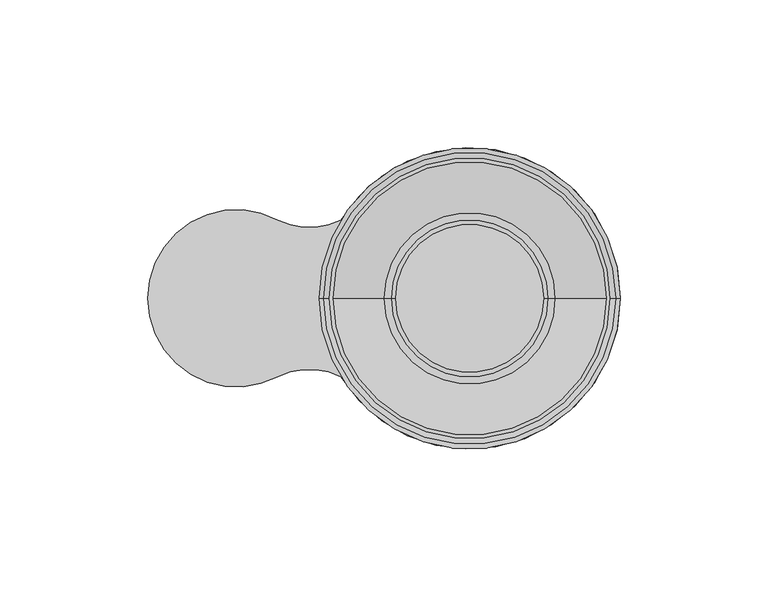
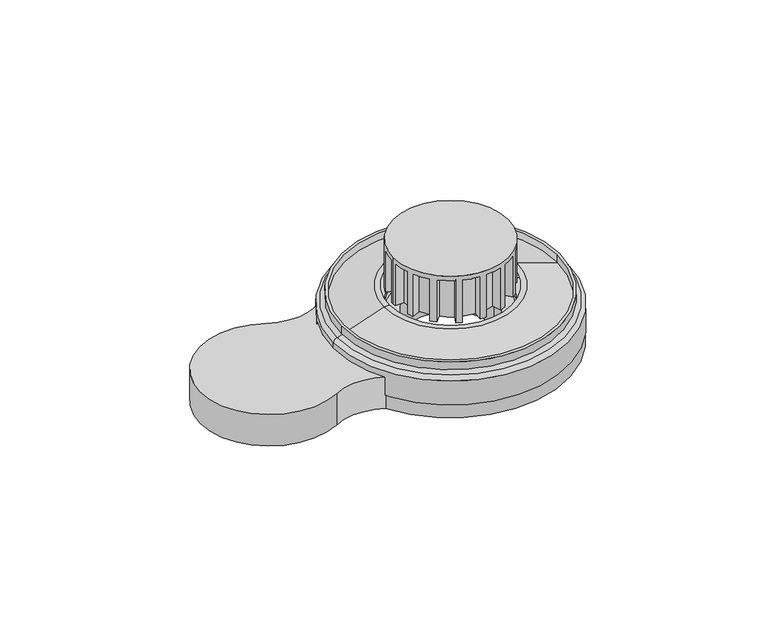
"""IFC4 building model written with IfcOpenShell, lengths in millimetres: alarm geometry, 4400I_Analog Multi Detector : 4400I-B_4479-B."""

from ifc_helpers import new_model, si_unit, point, frame, frame_2d, origin, origin_with_axes, origin_2d, place, context, project, spatial, polyline, circle_curve, ellipse_curve, trimmed, segment, composite_curve, outline, extrude, source, transform, mapped, element, save
from ifc_brep_helpers import plane_surface, cylinder_surface, revolved_surface, advanced_brep


def alarm_e853ffaf(model_context):
    return source(origin(), model_context, "Body", "SolidModel", [
        advanced_brep(
        [(49.4021885, 0.0, 18.7), (-49.4021885, 0.0, 18.7), (-29.0341186, 0.0, 25.5490601), (29.0341186, 0.0, 25.5490601), (46.9790343, 0.0, 18.7), (-46.9790343, 0.0, 18.7), (26.6109644, 0.0, 25.5490601), (-26.6109644, 0.0, 25.5490601)],
        [
            (0, 1, circle_curve(frame((0.0, 0.0, 18.7), z_axis=(0.0, 0.0, 1.0), x_axis=(-1.0, 0.0, 0.0)), 49.4021885)),
            (1, 2),
            (2, 3, circle_curve(frame((0.0, 0.0, 25.5490601), z_axis=(0.0, 0.0, -1.0), x_axis=(-1.0, 0.0, 0.0)), 29.0341186)),
            (3, 0),
            (1, 0, circle_curve(frame((0.0, 0.0, 18.7), z_axis=(0.0, 0.0, 1.0), x_axis=(-1.0, 0.0, 0.0)), 49.4021885)),
            (3, 2, circle_curve(frame((0.0, 0.0, 25.5490601), z_axis=(0.0, 0.0, -1.0), x_axis=(-1.0, 0.0, 0.0)), 29.0341186)),
            (4, 5, circle_curve(frame((0.0, 0.0, 18.7), z_axis=(0.0, 0.0, 1.0), x_axis=(-1.0, 0.0, 0.0)), 46.9790343)),
            (5, 1),
            (0, 4),
            (5, 4, circle_curve(frame((0.0, 0.0, 18.7), z_axis=(0.0, 0.0, 1.0), x_axis=(-1.0, 0.0, 0.0)), 46.9790343)),
            (6, 7, circle_curve(frame((0.0, 0.0, 25.5490601), z_axis=(0.0, 0.0, 1.0), x_axis=(-1.0, 0.0, 0.0)), 26.6109644)),
            (7, 5),
            (4, 6),
            (7, 6, circle_curve(frame((0.0, 0.0, 25.5490601), z_axis=(0.0, 0.0, 1.0), x_axis=(-1.0, 0.0, 0.0)), 26.6109644)),
            (2, 7),
            (6, 3),
        ],
        [
            revolved_surface(polyline([(-29.0341186, 0.0, 25.5490601), (-49.4021885, 0.0, 18.7)]), (0.0, 0.0, 2609.0581012), (0.0, 0.0, -1.0)),
            plane_surface(frame((0.0, 0.0, 18.7), z_axis=(0.0, 0.0, -1.0), x_axis=(-1.0, 0.0, 0.0))),
            revolved_surface(polyline([(-46.9790343, 0.0, 18.7), (-26.6109644, 0.0, 25.5490601)]), (0.0, 0.0, 2609.0581012), (0.0, 0.0, -1.0)),
            plane_surface(frame((0.0, 0.0, 25.5490601), z_axis=(0.0, 0.0, 1.0), x_axis=(-1.0, 0.0, 0.0))),
        ],
        [
            (0, [[1, 2, 3, 4]]),
            (0, [[5, -4, 6, -2]]),
            (1, [[7, 8, -1, 9]]),
            (1, [[10, -9, -5, -8]]),
            (2, [[11, 12, -7, 13]]),
            (2, [[14, -13, -10, -12]]),
            (3, [[-3, 15, -11, 16]]),
            (3, [[-6, -16, -14, -15]]),
        ],
    ),
        advanced_brep(
        [(-25.0, 0.0, 47.0), (25.0, 0.0, 47.0), (-10.2364426, 22.8082275, 25.5490601), (-7.8171012, 23.7464298, 25.5490601), (-6.566365, 19.9470011, 25.5490601), (-0.7601379, 20.9862381, 25.5490601), (-0.7748533, 24.9879892, 25.5490601), (1.8194655, 24.933703, 25.5490601), (1.528351, 20.9443105, 25.5490601), (7.2926143, 19.6930895, 25.5490601), (8.8036125, 23.3986411, 25.5490601), (11.1815896, 22.3600549, 25.5490601), (9.3925353, 18.7824461, 25.5490601), (14.2453716, 15.4294973, 25.5490601), (17.0541691, 18.2799157, 25.5490601), (18.857118, 16.4136864, 25.5490601), (15.8399791, 13.7874966, 25.5490601), (19.0494019, 8.8385682, 25.5490601), (22.7323284, 10.4039053, 25.5490601), (23.688298, 7.9915291, 25.5490601), (19.8981703, 6.7128844, 25.5490601), (20.9800803, 0.9144573, 25.5490601), (24.9816149, 0.9586025, 25.5490601), (25.0, 0.0, 25.5490601), (24.9464097, -1.6360453, 25.5490601), (20.9549841, -1.3742781, 25.5490601), (19.7461893, -7.1475874, 25.5490601), (23.4627531, -8.6312929, 25.5490601), (22.4416834, -11.0168438, 25.5490601), (18.851014, -9.2541488, 25.5490601), (15.5338454, -14.1315126, 25.5490601), (18.4048435, -16.9192711, 25.5490601), (16.5519242, -18.7358962, 25.5490601), (13.9036163, -15.7381528, 25.5490601), (8.978425, -18.9838849, 25.5490601), (10.5708052, -22.6551998, 25.5490601), (8.1655248, -23.628885, 25.5490601), (6.8590408, -19.8482634, 25.5490601), (1.0687273, -20.9727877, 25.5490601), (1.1422999, -24.9738894, 25.5490601), (-1.4525367, -24.9577671, 25.5490601), (-1.2201308, -20.9645243, 25.5490601), (-7.0021739, -19.7982211, 25.5490601), (-8.4585064, -23.5255961, 25.5490601), (-10.8515021, -22.5220981, 25.5490601), (-9.1152617, -18.9185624, 25.5490601), (-14.0168893, -15.6373532, 25.5490601), (-16.7834581, -18.5287758, 25.5490601), (-18.613661, -16.6892667, 25.5490601), (-15.6354753, -14.018984, 25.5490601), (-18.9173411, -9.1177961, 25.5490601), (-22.5768458, -10.7371334, 25.5490601), (-23.5681939, -8.3390788, 25.5490601), (-19.7972829, -7.0048262, 25.5490601), (-20.9643607, -1.2229394, 25.5490601), (-24.9648131, -1.3259355, 25.5490601), (-25.0, 0.0, 25.5490601), (-24.9677746, 1.2689495, 25.5490601), (-20.9729306, 1.0659176, 25.5490601), (-19.8491821, 6.8563817, 25.5490601), (-23.5871666, 8.2852624, 25.5490601), (-22.2772169, 11.3457307, 25.5490601), (-18.7128622, 9.5304138, 25.5490601), (-15.3243147, 14.3584602, 25.5490601), (-18.1539992, 17.1881446, 25.5490601), (-16.2745608, 18.9773199, 25.5490601), (-13.6706311, 15.9409487, 25.5490601), (-8.6982334, 19.1138885, 25.5490601), (-24.9648131, -1.3259355, 44.9967715), (-23.5681939, -8.3390788, 44.9967715), (-22.5768458, -10.7371334, 44.9967715), (-18.613661, -16.6892667, 44.9967715), (-16.7834581, -18.5287758, 44.9967715), (-10.8515021, -22.5220981, 44.9967715), (-8.4585064, -23.5255961, 44.9967715), (-1.4525367, -24.9577671, 44.9967715), (1.1422999, -24.9738894, 44.9967715), (8.1655248, -23.628885, 44.9967715), (10.5708052, -22.6551998, 44.9967715), (16.5519242, -18.7358962, 44.9967715), (18.4048435, -16.9192711, 44.9967715), (22.4416834, -11.0168438, 44.9967715), (23.4627531, -8.6312929, 44.9967715), (24.9464097, -1.6360453, 44.9967715), (24.9816149, 0.9586025, 44.9967715), (23.688298, 7.9915291, 44.9967715), (22.7323284, 10.4039053, 44.9967715), (18.857118, 16.4136864, 44.9967715), (17.0541691, 18.2799157, 44.9967715), (11.1815896, 22.3600549, 44.9967715), (8.8036125, 23.3986411, 44.9967715), (1.8194655, 24.933703, 44.9967715), (-0.7748533, 24.9879892, 44.9967715), (-7.8171012, 23.7464298, 44.9967715), (-10.2364426, 22.8082275, 44.9967715), (-16.2745608, 18.9773199, 44.9967715), (-18.1539992, 17.1881446, 44.9967715), (-22.2772169, 11.3457307, 44.9967715), (-23.5871666, 8.2852624, 44.9967715), (-24.9677746, 1.2689495, 44.9967715), (-8.6982334, 19.1138885, 44.9967715), (-13.6706311, 15.9409487, 44.9967715), (-0.7601379, 20.9862381, 44.9967715), (-6.566365, 19.9470011, 44.9967715), (7.2926143, 19.6930895, 44.9967715), (1.528351, 20.9443105, 44.9967715), (14.2453716, 15.4294973, 44.9967715), (9.3925353, 18.7824461, 44.9967715), (19.0494019, 8.8385682, 44.9967715), (15.8399791, 13.7874966, 44.9967715), (20.9800803, 0.9144573, 44.9967715), (19.8981703, 6.7128844, 44.9967715), (19.7461893, -7.1475874, 44.9967715), (20.9549841, -1.3742781, 44.9967715), (15.5338454, -14.1315126, 44.9967715), (18.851014, -9.2541488, 44.9967715), (8.978425, -18.9838849, 44.9967715), (13.9036163, -15.7381528, 44.9967715), (1.0687273, -20.9727877, 44.9967715), (6.8590408, -19.8482634, 44.9967715), (-7.0021739, -19.7982211, 44.9967715), (-1.2201308, -20.9645243, 44.9967715), (-14.0168893, -15.6373532, 44.9967715), (-9.1152617, -18.9185624, 44.9967715), (-18.9173411, -9.1177961, 44.9967715), (-15.6354753, -14.018984, 44.9967715), (-20.9643607, -1.2229394, 44.9967715), (-19.7972829, -7.0048262, 44.9967715), (-19.8491821, 6.8563817, 44.9967715), (-20.9729306, 1.0659176, 44.9967715), (-15.3243147, 14.3584602, 44.9967715), (-18.7128622, 9.5304138, 44.9967715)],
        [
            (0, 1, circle_curve(frame((0.0, 0.0, 47.0), z_axis=(0.0, 0.0, 1.0), x_axis=(1.0, 0.0, 0.0)), 25.0)),
            (1, 0, circle_curve(frame((0.0, 0.0, 47.0), z_axis=(0.0, 0.0, 1.0), x_axis=(1.0, 0.0, 0.0)), 25.0)),
            (2, 3, circle_curve(frame((0.0, 0.0, 25.5490601), z_axis=(0.0, 0.0, -1.0), x_axis=(1.0, 0.0, 0.0)), 25.0)),
            (3, 4),
            (4, 5, circle_curve(frame((0.0, 0.0, 25.5490601), z_axis=(0.0, 0.0, -1.0), x_axis=(0.7097021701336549, -0.7045018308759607, 0.0)), 21.0)),
            (5, 6),
            (6, 7, circle_curve(frame((0.0, 0.0, 25.5490601), z_axis=(0.0, 0.0, -1.0), x_axis=(1.0, 0.0, 0.0)), 25.0)),
            (7, 8),
            (8, 9, circle_curve(frame((0.0, 0.0, 25.5490601), z_axis=(0.0, 0.0, -1.0), x_axis=(0.38777352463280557, -0.9217546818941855, 0.0)), 21.0)),
            (9, 10),
            (10, 11, circle_curve(frame((0.0, 0.0, 25.5490601), z_axis=(0.0, 0.0, -1.0), x_axis=(1.0, 0.0, 0.0)), 25.0)),
            (11, 12),
            (12, 13, circle_curve(frame((0.0, 0.0, 25.5490601), z_axis=(0.0, 0.0, -1.0), x_axis=(0.0073543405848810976, -0.9999729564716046, 0.0)), 21.0)),
            (13, 14),
            (14, 15, circle_curve(frame((0.0, 0.0, 25.5490601), z_axis=(0.0, 0.0, -1.0), x_axis=(1.0, 0.0, 0.0)), 25.0)),
            (15, 16),
            (16, 17, circle_curve(frame((0.0, 0.0, 25.5490601), z_axis=(0.0, 0.0, -1.0), x_axis=(-0.3741741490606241, -0.9273584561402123, 0.0)), 21.0)),
            (17, 18),
            (18, 19, circle_curve(frame((0.0, 0.0, 25.5490601), z_axis=(0.0, 0.0, -1.0), x_axis=(1.0, 0.0, 0.0)), 25.0)),
            (19, 20),
            (20, 21, circle_curve(frame((0.0, 0.0, 25.5490601), z_axis=(0.0, 0.0, -1.0), x_axis=(-0.6992633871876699, -0.7148641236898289, 0.0)), 21.0)),
            (21, 22),
            (22, 23, circle_curve(frame((0.0, 0.0, 25.5490601), z_axis=(0.0, 0.0, -1.0), x_axis=(1.0, 0.0, 0.0)), 25.0)),
            (23, 24, circle_curve(frame((0.0, 0.0, 25.5490601), z_axis=(0.0, 0.0, -1.0), x_axis=(1.0, 0.0, 0.0)), 25.0)),
            (24, 25),
            (25, 26, circle_curve(frame((0.0, 0.0, 25.5490601), z_axis=(0.0, 0.0, -1.0), x_axis=(-0.9188779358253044, -0.39454193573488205, 0.0)), 21.0)),
            (26, 27),
            (27, 28, circle_curve(frame((0.0, 0.0, 25.5490601), z_axis=(0.0, 0.0, -1.0), x_axis=(1.0, 0.0, 0.0)), 25.0)),
            (28, 29),
            (29, 30, circle_curve(frame((0.0, 0.0, 25.5490601), z_axis=(0.0, 0.0, -1.0), x_axis=(-0.9998918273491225, -0.014708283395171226, 0.0)), 21.0)),
            (30, 31),
            (31, 32, circle_curve(frame((0.0, 0.0, 25.5490601), z_axis=(0.0, 0.0, -1.0), x_axis=(1.0, 0.0, 0.0)), 25.0)),
            (32, 33),
            (33, 34, circle_curve(frame((0.0, 0.0, 25.5490601), z_axis=(0.0, 0.0, -1.0), x_axis=(-0.9300851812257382, 0.3673439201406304, 0.0)), 21.0)),
            (34, 35),
            (35, 36, circle_curve(frame((0.0, 0.0, 25.5490601), z_axis=(0.0, 0.0, -1.0), x_axis=(1.0, 0.0, 0.0)), 25.0)),
            (36, 37),
            (37, 38, circle_curve(frame((0.0, 0.0, 25.5490601), z_axis=(0.0, 0.0, -1.0), x_axis=(-0.7199874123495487, 0.6939871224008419, 0.0)), 21.0)),
            (38, 39),
            (39, 40, circle_curve(frame((0.0, 0.0, 25.5490601), z_axis=(0.0, 0.0, -1.0), x_axis=(1.0, 0.0, 0.0)), 25.0)),
            (40, 41),
            (41, 42, circle_curve(frame((0.0, 0.0, 25.5490601), z_axis=(0.0, 0.0, -1.0), x_axis=(-0.4012890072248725, 0.9159514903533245, 0.0)), 21.0)),
            (42, 43),
            (43, 44, circle_curve(frame((0.0, 0.0, 25.5490601), z_axis=(0.0, 0.0, -1.0), x_axis=(1.0, 0.0, 0.0)), 25.0)),
            (44, 45),
            (45, 46, circle_curve(frame((0.0, 0.0, 25.5490601), z_axis=(0.0, 0.0, -1.0), x_axis=(-0.022061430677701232, 0.9997566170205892, 0.0)), 21.0)),
            (46, 47),
            (47, 48, circle_curve(frame((0.0, 0.0, 25.5490601), z_axis=(0.0, 0.0, -1.0), x_axis=(1.0, 0.0, 0.0)), 25.0)),
            (48, 49),
            (49, 50, circle_curve(frame((0.0, 0.0, 25.5490601), z_axis=(0.0, 0.0, -1.0), x_axis=(0.36049382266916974, 0.9327616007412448, 0.0)), 21.0)),
            (50, 51),
            (51, 52, circle_curve(frame((0.0, 0.0, 25.5490601), z_axis=(0.0, 0.0, -1.0), x_axis=(1.0, 0.0, 0.0)), 25.0)),
            (52, 53),
            (53, 54, circle_curve(frame((0.0, 0.0, 25.5490601), z_axis=(0.0, 0.0, -1.0), x_axis=(0.6886733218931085, 0.7250717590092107, 0.0)), 21.0)),
            (54, 55),
            (55, 56, circle_curve(frame((0.0, 0.0, 25.5490601), z_axis=(0.0, 0.0, -1.0), x_axis=(1.0, 0.0, 0.0)), 25.0)),
            (56, 57, circle_curve(frame((0.0, 0.0, 25.5490601), z_axis=(0.0, 0.0, -1.0), x_axis=(1.0, 0.0, 0.0)), 25.0)),
            (57, 58),
            (58, 59, circle_curve(frame((0.0, 0.0, 25.5490601), z_axis=(0.0, 0.0, -1.0), x_axis=(0.9129755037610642, 0.4080143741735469, 0.0)), 21.0)),
            (59, 60),
            (60, 61, circle_curve(frame((0.0, 0.0, 25.5490601), z_axis=(0.0, 0.0, -1.0), x_axis=(1.0, 0.0, 0.0)), 25.0)),
            (61, 62),
            (62, 63, circle_curve(frame((0.0, 0.0, 25.5490601), z_axis=(0.0, 0.0, -1.0), x_axis=(1.0, 0.0, 0.0)), 21.0)),
            (63, 64),
            (64, 65, circle_curve(frame((0.0, 0.0, 25.5490601), z_axis=(0.0, 0.0, -1.0), x_axis=(1.0, 0.0, 0.0)), 25.0)),
            (65, 66),
            (66, 67, circle_curve(frame((0.0, 0.0, 25.5490601), z_axis=(0.0, 0.0, -1.0), x_axis=(0.9245815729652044, -0.3809841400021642, 0.0)), 21.0)),
            (67, 2),
            (0, 56),
            (55, 68),
            (68, 69, circle_curve(frame((0.0, 0.0, 44.9967715), z_axis=(0.0, 0.0, 1.0), x_axis=(1.0, 0.0, 0.0)), 25.0)),
            (69, 52),
            (51, 70),
            (70, 71, circle_curve(frame((0.0, 0.0, 44.9967715), z_axis=(0.0, 0.0, 1.0), x_axis=(1.0, 0.0, 0.0)), 25.0)),
            (71, 48),
            (47, 72),
            (72, 73, circle_curve(frame((0.0, 0.0, 44.9967715), z_axis=(0.0, 0.0, 1.0), x_axis=(1.0, 0.0, 0.0)), 25.0)),
            (73, 44),
            (43, 74),
            (74, 75, circle_curve(frame((0.0, 0.0, 44.9967715), z_axis=(0.0, 0.0, 1.0), x_axis=(1.0, 0.0, 0.0)), 25.0)),
            (75, 40),
            (39, 76),
            (76, 77, circle_curve(frame((0.0, 0.0, 44.9967715), z_axis=(0.0, 0.0, 1.0), x_axis=(1.0, 0.0, 0.0)), 25.0)),
            (77, 36),
            (35, 78),
            (78, 79, circle_curve(frame((0.0, 0.0, 44.9967715), z_axis=(0.0, 0.0, 1.0), x_axis=(1.0, 0.0, 0.0)), 25.0)),
            (79, 32),
            (31, 80),
            (80, 81, circle_curve(frame((0.0, 0.0, 44.9967715), z_axis=(0.0, 0.0, 1.0), x_axis=(1.0, 0.0, 0.0)), 25.0)),
            (81, 28),
            (27, 82),
            (82, 83, circle_curve(frame((0.0, 0.0, 44.9967715), z_axis=(0.0, 0.0, 1.0), x_axis=(1.0, 0.0, 0.0)), 25.0)),
            (83, 24),
            (23, 1),
            (22, 84),
            (84, 85, circle_curve(frame((0.0, 0.0, 44.9967715), z_axis=(0.0, 0.0, 1.0), x_axis=(1.0, 0.0, 0.0)), 25.0)),
            (85, 19),
            (18, 86),
            (86, 87, circle_curve(frame((0.0, 0.0, 44.9967715), z_axis=(0.0, 0.0, 1.0), x_axis=(1.0, 0.0, 0.0)), 25.0)),
            (87, 15),
            (14, 88),
            (88, 89, circle_curve(frame((0.0, 0.0, 44.9967715), z_axis=(0.0, 0.0, 1.0), x_axis=(1.0, 0.0, 0.0)), 25.0)),
            (89, 11),
            (10, 90),
            (90, 91, circle_curve(frame((0.0, 0.0, 44.9967715), z_axis=(0.0, 0.0, 1.0), x_axis=(1.0, 0.0, 0.0)), 25.0)),
            (91, 7),
            (6, 92),
            (92, 93, circle_curve(frame((0.0, 0.0, 44.9967715), z_axis=(0.0, 0.0, 1.0), x_axis=(1.0, 0.0, 0.0)), 25.0)),
            (93, 3),
            (2, 94),
            (94, 95, circle_curve(frame((0.0, 0.0, 44.9967715), z_axis=(0.0, 0.0, 1.0), x_axis=(1.0, 0.0, 0.0)), 25.0)),
            (95, 65),
            (64, 96),
            (96, 97, circle_curve(frame((0.0, 0.0, 44.9967715), z_axis=(0.0, 0.0, 1.0), x_axis=(1.0, 0.0, 0.0)), 25.0)),
            (97, 61),
            (60, 98),
            (98, 99, circle_curve(frame((0.0, 0.0, 44.9967715), z_axis=(0.0, 0.0, 1.0), x_axis=(1.0, 0.0, 0.0)), 25.0)),
            (99, 57),
            (100, 101, circle_curve(frame((0.0, 0.0, 44.9967715), z_axis=(0.0, 0.0, 1.0), x_axis=(0.9245815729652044, -0.3809841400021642, 0.0)), 21.0)),
            (101, 95),
            (94, 100),
            (102, 103, circle_curve(frame((0.0, 0.0, 44.9967715), z_axis=(0.0, 0.0, 1.0), x_axis=(0.7097021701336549, -0.7045018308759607, 0.0)), 21.0)),
            (103, 93),
            (92, 102),
            (104, 105, circle_curve(frame((0.0, 0.0, 44.9967715), z_axis=(0.0, 0.0, 1.0), x_axis=(0.38777352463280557, -0.9217546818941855, 0.0)), 21.0)),
            (105, 91),
            (90, 104),
            (106, 107, circle_curve(frame((0.0, 0.0, 44.9967715), z_axis=(0.0, 0.0, 1.0), x_axis=(0.0073543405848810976, -0.9999729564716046, 0.0)), 21.0)),
            (107, 89),
            (88, 106),
            (108, 109, circle_curve(frame((0.0, 0.0, 44.9967715), z_axis=(0.0, 0.0, 1.0), x_axis=(-0.3741741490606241, -0.9273584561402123, 0.0)), 21.0)),
            (109, 87),
            (86, 108),
            (110, 111, circle_curve(frame((0.0, 0.0, 44.9967715), z_axis=(0.0, 0.0, 1.0), x_axis=(-0.6992633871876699, -0.7148641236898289, 0.0)), 21.0)),
            (111, 85),
            (84, 110),
            (112, 113, circle_curve(frame((0.0, 0.0, 44.9967715), z_axis=(0.0, 0.0, 1.0), x_axis=(-0.9188779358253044, -0.39454193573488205, 0.0)), 21.0)),
            (113, 83),
            (82, 112),
            (114, 115, circle_curve(frame((0.0, 0.0, 44.9967715), z_axis=(0.0, 0.0, 1.0), x_axis=(-0.9998918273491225, -0.014708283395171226, 0.0)), 21.0)),
            (115, 81),
            (80, 114),
            (116, 117, circle_curve(frame((0.0, 0.0, 44.9967715), z_axis=(0.0, 0.0, 1.0), x_axis=(-0.9300851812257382, 0.3673439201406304, 0.0)), 21.0)),
            (117, 79),
            (78, 116),
            (118, 119, circle_curve(frame((0.0, 0.0, 44.9967715), z_axis=(0.0, 0.0, 1.0), x_axis=(-0.7199874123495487, 0.6939871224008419, 0.0)), 21.0)),
            (119, 77),
            (76, 118),
            (120, 121, circle_curve(frame((0.0, 0.0, 44.9967715), z_axis=(0.0, 0.0, 1.0), x_axis=(-0.4012890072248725, 0.9159514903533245, 0.0)), 21.0)),
            (121, 75),
            (74, 120),
            (122, 123, circle_curve(frame((0.0, 0.0, 44.9967715), z_axis=(0.0, 0.0, 1.0), x_axis=(-0.022061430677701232, 0.9997566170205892, 0.0)), 21.0)),
            (123, 73),
            (72, 122),
            (124, 125, circle_curve(frame((0.0, 0.0, 44.9967715), z_axis=(0.0, 0.0, 1.0), x_axis=(0.36049382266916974, 0.9327616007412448, 0.0)), 21.0)),
            (125, 71),
            (70, 124),
            (126, 127, circle_curve(frame((0.0, 0.0, 44.9967715), z_axis=(0.0, 0.0, 1.0), x_axis=(0.6886733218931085, 0.7250717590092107, 0.0)), 21.0)),
            (127, 69),
            (68, 126),
            (128, 129, circle_curve(frame((0.0, 0.0, 44.9967715), z_axis=(0.0, 0.0, 1.0), x_axis=(0.9129755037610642, 0.4080143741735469, 0.0)), 21.0)),
            (129, 99),
            (98, 128),
            (130, 131, circle_curve(frame((0.0, 0.0, 44.9967715), z_axis=(0.0, 0.0, 1.0), x_axis=(1.0, 0.0, 0.0)), 21.0)),
            (131, 97),
            (96, 130),
            (100, 67),
            (66, 101),
            (102, 5),
            (4, 103),
            (104, 9),
            (8, 105),
            (106, 13),
            (12, 107),
            (108, 17),
            (16, 109),
            (110, 21),
            (20, 111),
            (26, 112),
            (113, 25),
            (30, 114),
            (115, 29),
            (34, 116),
            (117, 33),
            (119, 37),
            (118, 38),
            (42, 120),
            (121, 41),
            (46, 122),
            (123, 45),
            (125, 49),
            (124, 50),
            (127, 53),
            (126, 54),
            (128, 59),
            (58, 129),
            (130, 63),
            (62, 131),
        ],
        [
            plane_surface(frame((25.0, 0.0, 47.0), z_axis=(0.0, 0.0, 1.0), x_axis=(0.0, 1.0, 0.0))),
            plane_surface(frame((25.0, 0.0, 25.5490601), z_axis=(0.0, 0.0, -1.0), x_axis=(0.0, -1.0, 0.0))),
            cylinder_surface(frame((0.0, 0.0, 25.5490601), z_axis=(0.0, 0.0, 1.0), x_axis=(1.0, 0.0, 0.0)), 25.0),
            plane_surface(frame((19.416213, -8.0006669, 44.9967715), z_axis=(0.0, 0.0, -1.0), x_axis=(-0.38098414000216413, -0.9245815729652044, 0.0))),
            cylinder_surface(frame((0.0, 0.0, 25.5490601), z_axis=(0.0, 0.0, -1.0000000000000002), x_axis=(0.9245815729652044, -0.3809841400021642, 0.0)), 21.0),
            plane_surface(frame((-8.6982334, 19.1138885, 44.9967715), z_axis=(-0.9231743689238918, -0.3843814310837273, 0.0), x_axis=(0.0, 0.0, -1.0))),
            plane_surface(frame((-18.8784906, 22.0136911, 44.9967715), z_axis=(0.7590927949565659, 0.6509824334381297, 0.0), x_axis=(0.0, 0.0, -1.0))),
            cylinder_surface(frame((0.0, 0.0, 0.0), z_axis=(0.0, 0.0, -1.0), x_axis=(0.7097021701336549, -0.7045018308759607, 0.0)), 21.0),
            plane_surface(frame((-0.7601379, 20.9862381, 44.9967715), z_axis=(-0.9999932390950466, -0.0036771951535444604, 0.0), x_axis=(0.0, 0.0, -1.0))),
            plane_surface(frame((-9.0678374, 27.5458586, 44.9967715), z_axis=(0.9498571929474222, 0.3126840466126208, 0.0), x_axis=(0.0, 0.0, -1.0))),
            cylinder_surface(frame((0.0, 0.0, 0.0), z_axis=(0.0, 0.0, -1.0000000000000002), x_axis=(0.38777352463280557, -0.9217546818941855, 0.0)), 21.0),
            plane_surface(frame((7.2926143, 19.6930895, 44.9967715), z_axis=(-0.9259762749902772, 0.37758169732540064, 0.0), x_axis=(0.0, 0.0, -1.0))),
            plane_surface(frame((2.1105799, 28.9230955, 44.9967715), z_axis=(0.9973481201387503, -0.07277861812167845, 0.0), x_axis=(0.0, 0.0, -1.0))),
            cylinder_surface(frame((0.0, 0.0, 0.0), z_axis=(0.0, 0.0, -1.0), x_axis=(0.0073543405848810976, -0.9999729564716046, 0.0)), 21.0),
            plane_surface(frame((14.2453716, 15.4294973, 44.9967715), z_axis=(-0.7122879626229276, 0.7018873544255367, 0.0), x_axis=(0.0, 0.0, -1.0))),
            plane_surface(frame((12.970644, 25.9376636, 44.9967715), z_axis=(0.8944021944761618, -0.44726358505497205, 0.0), x_axis=(0.0, 0.0, -1.0))),
            cylinder_surface(frame((0.0, 0.0, 0.0), z_axis=(0.0, 0.0, -1.0000000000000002), x_axis=(-0.3741741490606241, -0.9273584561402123, 0.0)), 21.0),
            plane_surface(frame((19.0494019, 8.8385682, 44.9967715), z_axis=(-0.39116037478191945, 0.9203225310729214, 0.0), x_axis=(0.0, 0.0, -1.0))),
            plane_surface(frame((21.8742569, 19.0398762, 44.9967715), z_axis=(0.6565474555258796, -0.7542847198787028, 0.0), x_axis=(0.0, 0.0, -1.0))),
            cylinder_surface(frame((0.0, 0.0, 0.0), z_axis=(0.0, 0.0, -1.0), x_axis=(-0.6992633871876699, -0.7148641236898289, 0.0)), 21.0),
            plane_surface(frame((20.9800803, 0.9144573, 44.9967715), z_axis=(-0.011031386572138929, 0.999939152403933, 0.0), x_axis=(0.0, 0.0, -1.0))),
            plane_surface(frame((27.4784257, 9.2701738, 44.9967715), z_axis=(0.3196611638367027, -0.9475319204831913, 0.0), x_axis=(0.0, 0.0, -1.0))),
            plane_surface(frame((19.7461893, -7.1475874, 44.9967715), z_axis=(0.37076154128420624, 0.9287280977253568, 0.0), x_axis=(0.0, 0.0, -1.0))),
            plane_surface(frame((28.9378352, -1.8978126, 44.9967715), z_axis=(-0.06544181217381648, -0.9978563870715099, 0.0), x_axis=(0.0, 0.0, -1.0))),
            cylinder_surface(frame((0.0, 0.0, 0.0), z_axis=(0.0, 0.0, -1.0), x_axis=(-0.9188779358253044, -0.39454193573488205, 0.0)), 21.0),
            plane_surface(frame((15.5338454, -14.1315126, 44.9967715), z_axis=(0.6966299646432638, 0.7174306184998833, 0.0), x_axis=(0.0, 0.0, -1.0))),
            plane_surface(frame((26.0323527, -12.7795388, 44.9967715), z_axis=(-0.44067375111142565, -0.8976673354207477, 0.0), x_axis=(0.0, 0.0, -1.0))),
            cylinder_surface(frame((0.0, 0.0, 0.0), z_axis=(0.0, 0.0, -1.0), x_axis=(-0.9998918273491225, -0.014708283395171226, 0.0)), 21.0),
            plane_surface(frame((8.978425, -18.9838849, 44.9967715), z_axis=(0.9174209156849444, 0.39791816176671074, 0.0), x_axis=(0.0, 0.0, -1.0))),
            plane_surface(frame((19.200232, -21.7336396, 44.9967715), z_axis=(-0.7494358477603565, -0.6620769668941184, 0.0), x_axis=(0.0, 0.0, -1.0))),
            cylinder_surface(frame((0.0, 0.0, 0.0), z_axis=(0.0, 0.0, -1.0000000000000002), x_axis=(-0.9300851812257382, 0.3673439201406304, 0.0)), 21.0),
            plane_surface(frame((9.4720088, -27.4095066, 44.9967715), z_axis=(-0.945155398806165, -0.3266209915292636, 0.0), x_axis=(0.0, 0.0, -1.0))),
            cylinder_surface(frame((0.0, 0.0, 0.0), z_axis=(0.0, 0.0, -1.0000000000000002), x_axis=(-0.7199874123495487, 0.6939871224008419, 0.0)), 21.0),
            plane_surface(frame((1.0687273, -20.9727877, 44.9967715), z_axis=(0.9998309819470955, 0.01838498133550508, 0.0), x_axis=(0.0, 0.0, -1.0))),
            plane_surface(frame((-7.0021739, -19.7982211, 44.9967715), z_axis=(0.9314296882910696, -0.3639213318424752, 0.0), x_axis=(0.0, 0.0, -1.0))),
            plane_surface(frame((-1.6849425, -28.9510098, 44.9967715), z_axis=(-0.9983106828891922, 0.058101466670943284, 0.0), x_axis=(0.0, 0.0, -1.0))),
            cylinder_surface(frame((0.0, 0.0, 0.0), z_axis=(0.0, 0.0, -1.0), x_axis=(-0.4012890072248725, 0.9159514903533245, 0.0)), 21.0),
            plane_surface(frame((-14.0168893, -15.6373532, 44.9967715), z_axis=(0.7225344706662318, -0.691334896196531, 0.0), x_axis=(0.0, 0.0, -1.0))),
            plane_surface(frame((-12.5877424, -26.1256338, 44.9967715), z_axis=(-0.9008839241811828, 0.43406008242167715, 0.0), x_axis=(0.0, 0.0, -1.0))),
            cylinder_surface(frame((0.0, 0.0, 0.0), z_axis=(0.0, 0.0, -1.0), x_axis=(-0.022061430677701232, 0.9997566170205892, 0.0)), 21.0),
            plane_surface(frame((-21.5918468, -19.3595494, 44.9967715), z_axis=(-0.6675706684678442, 0.7445464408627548, 0.0), x_axis=(0.0, 0.0, -1.0))),
            cylinder_surface(frame((0.0, 0.0, 0.0), z_axis=(0.0, 0.0, -1.0000000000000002), x_axis=(0.36049382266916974, 0.9327616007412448, 0.0)), 21.0),
            plane_surface(frame((-18.9173411, -9.1177961, 44.9967715), z_axis=(0.4046544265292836, -0.914469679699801, 0.0), x_axis=(0.0, 0.0, -1.0))),
            plane_surface(frame((-27.3391049, -9.6733314, 44.9967715), z_axis=(-0.3335631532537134, 0.9427277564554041, 0.0), x_axis=(0.0, 0.0, -1.0))),
            cylinder_surface(frame((0.0, 0.0, 0.0), z_axis=(0.0, 0.0, -1.0), x_axis=(0.6886733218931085, 0.7250717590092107, 0.0)), 21.0),
            plane_surface(frame((-20.9643607, -1.2229394, 44.9967715), z_axis=(0.025737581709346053, -0.9996687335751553, 0.0), x_axis=(0.0, 0.0, -1.0))),
            cylinder_surface(frame((0.0, 0.0, 0.0), z_axis=(0.0, 0.0, -1.0), x_axis=(0.9129755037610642, 0.4080143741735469, 0.0)), 21.0),
            plane_surface(frame((-19.8491821, 6.8563817, 44.9967715), z_axis=(-0.35706143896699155, -0.9340809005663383, 0.0), x_axis=(0.0, 0.0, -1.0))),
            plane_surface(frame((-28.9626185, 1.4719814, 44.9967715), z_axis=(0.05075797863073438, 0.998710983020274, 0.0), x_axis=(0.0, 0.0, -1.0))),
            cylinder_surface(frame((0.0, 0.0, 0.0), z_axis=(0.0, 0.0, -1.0), x_axis=(1.0, 0.0, 0.0)), 21.0),
            plane_surface(frame((-15.3243147, 14.3584602, 44.9967715), z_axis=(-0.7071067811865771, -0.7071067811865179, 0.0), x_axis=(0.0, 0.0, -1.0))),
            plane_surface(frame((-25.8415717, 13.1610476, 44.9967715), z_axis=(0.45382922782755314, 0.8910886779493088, 0.0), x_axis=(0.0, 0.0, -1.0))),
        ],
        [
            (0, [[1, 2]]),
            (1, [[3, 4, 5, 6, 7, 8, 9, 10, 11, 12, 13, 14, 15, 16, 17, 18, 19, 20, 21, 22, 23, 24, 25, 26, 27, 28, 29, 30, 31, 32, 33, 34, 35, 36, 37, 38, 39, 40, 41, 42, 43, 44, 45, 46, 47, 48, 49, 50, 51, 52, 53, 54, 55, 56, 57, 58, 59, 60, 61, 62, 63, 64, 65, 66, 67, 68]]),
            (2, [[-1, 69, -56, 70, 71, 72, -52, 73, 74, 75, -48, 76, 77, 78, -44, 79, 80, 81, -40, 82, 83, 84, -36, 85, 86, 87, -32, 88, 89, 90, -28, 91, 92, 93, -24, 94]]),
            (2, [[-2, -94, -23, 95, 96, 97, -19, 98, 99, 100, -15, 101, 102, 103, -11, 104, 105, 106, -7, 107, 108, 109, -3, 110, 111, 112, -65, 113, 114, 115, -61, 116, 117, 118, -57, -69]]),
            (3, [[119, 120, -111, 121]]),
            (3, [[122, 123, -108, 124]]),
            (3, [[125, 126, -105, 127]]),
            (3, [[128, 129, -102, 130]]),
            (3, [[131, 132, -99, 133]]),
            (3, [[134, 135, -96, 136]]),
            (3, [[137, 138, -92, 139]]),
            (3, [[140, 141, -89, 142]]),
            (3, [[143, 144, -86, 145]]),
            (3, [[146, 147, -83, 148]]),
            (3, [[149, 150, -80, 151]]),
            (3, [[152, 153, -77, 154]]),
            (3, [[155, 156, -74, 157]]),
            (3, [[158, 159, -71, 160]]),
            (3, [[161, 162, -117, 163]]),
            (3, [[164, 165, -114, 166]]),
            (4, [[-119, 167, -67, 168]]),
            (5, [[-167, -121, -110, -68]]),
            (6, [[-168, -66, -112, -120]]),
            (7, [[-122, 169, -5, 170]]),
            (8, [[-169, -124, -107, -6]]),
            (9, [[-170, -4, -109, -123]]),
            (10, [[-125, 171, -9, 172]]),
            (11, [[-171, -127, -104, -10]]),
            (12, [[-172, -8, -106, -126]]),
            (13, [[-128, 173, -13, 174]]),
            (14, [[-173, -130, -101, -14]]),
            (15, [[-174, -12, -103, -129]]),
            (16, [[-131, 175, -17, 176]]),
            (17, [[-175, -133, -98, -18]]),
            (18, [[-176, -16, -100, -132]]),
            (19, [[-134, 177, -21, 178]]),
            (20, [[-177, -136, -95, -22]]),
            (21, [[-178, -20, -97, -135]]),
            (22, [[179, -139, -91, -27]]),
            (23, [[180, -25, -93, -138]]),
            (24, [[-137, -179, -26, -180]]),
            (25, [[181, -142, -88, -31]]),
            (26, [[182, -29, -90, -141]]),
            (27, [[-140, -181, -30, -182]]),
            (28, [[183, -145, -85, -35]]),
            (29, [[184, -33, -87, -144]]),
            (30, [[-143, -183, -34, -184]]),
            (31, [[185, -37, -84, -147]]),
            (32, [[-146, 186, -38, -185]]),
            (33, [[-186, -148, -82, -39]]),
            (34, [[187, -151, -79, -43]]),
            (35, [[188, -41, -81, -150]]),
            (36, [[-149, -187, -42, -188]]),
            (37, [[189, -154, -76, -47]]),
            (38, [[190, -45, -78, -153]]),
            (39, [[-152, -189, -46, -190]]),
            (40, [[191, -49, -75, -156]]),
            (41, [[-155, 192, -50, -191]]),
            (42, [[-192, -157, -73, -51]]),
            (43, [[193, -53, -72, -159]]),
            (44, [[-158, 194, -54, -193]]),
            (45, [[-194, -160, -70, -55]]),
            (46, [[-161, 195, -59, 196]]),
            (47, [[-195, -163, -116, -60]]),
            (48, [[-196, -58, -118, -162]]),
            (49, [[-164, 197, -63, 198]]),
            (50, [[-197, -166, -113, -64]]),
            (51, [[-198, -62, -115, -165]]),
        ],
    ),
        advanced_brep(
        [(25.0, 0.0, 18.7), (-25.0, 0.0, 18.7), (-25.0, 0.0, 17.0), (25.0, 0.0, 17.0), (49.4021885, 0.0, 18.7), (-49.4021885, 0.0, 18.7), (51.0000836, 0.0, 17.0), (-51.0000836, 0.0, 17.0)],
        [
            (0, 1, circle_curve(frame((0.0, 0.0, 18.7), z_axis=(0.0, 0.0, 1.0), x_axis=(-1.0, 0.0, 0.0)), 25.0)),
            (1, 2),
            (2, 3, circle_curve(frame((0.0, 0.0, 17.0), z_axis=(0.0, 0.0, -1.0), x_axis=(-1.0, 0.0, 0.0)), 25.0)),
            (3, 0),
            (1, 0, circle_curve(frame((0.0, 0.0, 18.7), z_axis=(0.0, 0.0, 1.0), x_axis=(-1.0, 0.0, 0.0)), 25.0)),
            (3, 2, circle_curve(frame((0.0, 0.0, 17.0), z_axis=(0.0, 0.0, -1.0), x_axis=(-1.0, 0.0, 0.0)), 25.0)),
            (4, 5, circle_curve(frame((0.0, 0.0, 18.7), z_axis=(0.0, 0.0, 1.0), x_axis=(-1.0, 0.0, 0.0)), 49.4021885)),
            (5, 1),
            (0, 4),
            (5, 4, circle_curve(frame((0.0, 0.0, 18.7), z_axis=(0.0, 0.0, 1.0), x_axis=(-1.0, 0.0, 0.0)), 49.4021885)),
            (6, 7, circle_curve(frame((0.0, 0.0, 17.0), z_axis=(0.0, 0.0, 1.0), x_axis=(-1.0, 0.0, 0.0)), 51.0000836)),
            (7, 5, circle_curve(frame((-49.2482507, 0.0, 16.9543466), z_axis=(0.0, 1.0, 0.0), x_axis=(1.0, 0.0, 0.0)), 1.7524276)),
            (4, 6, circle_curve(frame((49.2482507, 0.0, 16.9543466), z_axis=(0.0, 1.0, 0.0), x_axis=(-1.0, 0.0, 0.0)), 1.7524276)),
            (7, 6, circle_curve(frame((0.0, 0.0, 17.0), z_axis=(0.0, 0.0, 1.0), x_axis=(-1.0, 0.0, 0.0)), 51.0000836)),
            (2, 7),
            (6, 3),
        ],
        [
            revolved_surface(polyline([(-25.0, 0.0, 17.0), (-25.0, 0.0, 18.699999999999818)]), (0.0, 0.0, 2609.0581012), (0.0, 0.0, -1.0)),
            plane_surface(frame((0.0, 0.0, 18.7), z_axis=(0.0, 0.0, 1.0), x_axis=(-1.0, 0.0, 0.0))),
            revolved_surface(trimmed(ellipse_curve(frame((-49.2482507, 0.0, 16.9543466), z_axis=(0.0, -1.0, 0.0), x_axis=(1.0, 0.0, 0.0)), 1.7524276, 1.7524276), [point((-49.4021885, 0.0, 18.7))], [point((-51.0000836, 0.0, 17.0))], True, "CARTESIAN"), (0.0, 0.0, 2609.0581012), (0.0, 0.0, -1.0)),
            plane_surface(frame((0.0, 0.0, 17.0), z_axis=(0.0, 0.0, -1.0), x_axis=(-1.0, 0.0, 0.0))),
        ],
        [
            (0, [[1, 2, 3, 4]]),
            (0, [[5, -4, 6, -2]]),
            (1, [[7, 8, -1, 9]]),
            (1, [[10, -9, -5, -8]]),
            (2, [[11, 12, -7, 13]]),
            (2, [[14, -13, -10, -12]]),
            (3, [[-3, 15, -11, 16]]),
            (3, [[-6, -16, -14, -15]]),
        ],
    ),
        extrude(outline(composite_curve([segment(trimmed(circle_curve(origin_2d(), 51.0), [point((-51.0, 0.0))], [point((51.0, 0.0))], False, "CARTESIAN"), True, "CONTINUOUS"), segment(trimmed(circle_curve(origin_2d(), 51.0), [point((51.0, 0.0))], [point((-51.0, 0.0))], False, "CARTESIAN"), True, "CONTINUOUS")], self_intersect=False), holes=[composite_curve([segment(trimmed(circle_curve(origin_2d(), 25.0), [point((-25.0, 0.0))], [point((25.0, 0.0))], True, "CARTESIAN"), True, "CONTINUOUS"), segment(trimmed(circle_curve(origin_2d(), 25.0), [point((25.0, 0.0))], [point((-25.0, 0.0))], True, "CARTESIAN"), True, "CONTINUOUS")], self_intersect=False)]), frame((0.0, 0.0, 6.0), z_axis=(0.0, 0.0, 1.0), x_axis=(1.0, 0.0, 0.0)), (0.0, 0.0, 1.0), 11.0),
        extrude(outline(composite_curve([segment(trimmed(circle_curve(origin_2d(), 51.0), [point((51.0, 0.0))], [point((-43.5719611, -26.5044187))], False, "CARTESIAN"), True, "CONTINUOUS"), segment(trimmed(circle_curve(frame_2d((-54.258965, -48.2407206)), 24.2214549), [point((-43.5719611, -26.5044187))], [point((-64.9459689, -26.5044187))], True, "CARTESIAN"), True, "CONTINUOUS"), segment(trimmed(circle_curve(frame_2d((-79.0, 0.0)), 30.0), [point((-64.9459689, -26.5044187))], [point((-64.9459689, 26.5044187))], False, "CARTESIAN"), True, "CONTINUOUS"), segment(trimmed(circle_curve(frame_2d((-54.258965, 48.2407206)), 24.2214549), [point((-64.9459689, 26.5044187))], [point((-43.5719611, 26.5044187))], True, "CARTESIAN"), True, "CONTINUOUS"), segment(trimmed(circle_curve(origin_2d(), 51.0), [point((-43.5719611, 26.5044187))], [point((51.0, 0.0))], False, "CARTESIAN"), True, "CONTINUOUS")], self_intersect=False), holes=[composite_curve([segment(polyline([(-21.534819, -18.7063919), (-28.2213509, -25.3929238)]), True, "CONTINUOUS"), segment(trimmed(circle_curve(frame_2d((-26.8071373, -26.8071373)), 2.0), [point((-28.2213509, -25.3929238))], [point((-25.3929238, -28.2213509))], True, "CARTESIAN"), True, "CONTINUOUS"), segment(polyline([(-25.3929238, -28.2213509), (-18.7063919, -21.534819)]), True, "CONTINUOUS"), segment(trimmed(circle_curve(frame_2d((-20.1206054, -20.1206054)), 2.0), [point((-18.7063919, -21.534819))], [point((-21.534819, -18.7063919))], True, "CARTESIAN"), True, "CONTINUOUS")], self_intersect=False), composite_curve([segment(trimmed(circle_curve(origin_2d(), 19.0814982), [point((-19.0814982, 0.0))], [point((19.0814982, 0.0))], True, "CARTESIAN"), True, "CONTINUOUS"), segment(trimmed(circle_curve(origin_2d(), 19.0814982), [point((19.0814982, 0.0))], [point((-19.0814982, 0.0))], True, "CARTESIAN"), True, "CONTINUOUS")], self_intersect=False), composite_curve([segment(trimmed(circle_curve(frame_2d((20.1206054, 20.1206054)), 2.0), [point((18.7063919, 21.534819))], [point((21.534819, 18.7063919))], True, "CARTESIAN"), True, "CONTINUOUS"), segment(polyline([(21.534819, 18.7063919), (28.2213509, 25.3929238)]), True, "CONTINUOUS"), segment(trimmed(circle_curve(frame_2d((26.8071373, 26.8071373)), 2.0), [point((28.2213509, 25.3929238))], [point((25.3929238, 28.2213509))], True, "CARTESIAN"), True, "CONTINUOUS"), segment(polyline([(25.3929238, 28.2213509), (18.7063919, 21.534819)]), True, "CONTINUOUS")], self_intersect=False)]), origin_with_axes(), (0.0, 0.0, 1.0), 14.485042),
        extrude(outline(composite_curve([segment(trimmed(circle_curve(origin_2d(), 47.5), [point((-47.5, 0.0))], [point((47.5, 0.0))], False, "CARTESIAN"), True, "CONTINUOUS"), segment(trimmed(circle_curve(origin_2d(), 47.5), [point((47.5, 0.0))], [point((-47.5, 0.0))], False, "CARTESIAN"), True, "CONTINUOUS")], self_intersect=False), holes=[composite_curve([segment(trimmed(circle_curve(origin_2d(), 46.242496), [point((-46.242496, 0.0))], [point((46.242496, 0.0))], True, "CARTESIAN"), True, "CONTINUOUS"), segment(trimmed(circle_curve(origin_2d(), 46.242496), [point((46.242496, 0.0))], [point((-46.242496, 0.0))], True, "CARTESIAN"), True, "CONTINUOUS")], self_intersect=False)]), frame((0.0, 0.0, 14.485042), z_axis=(0.0, 0.0, 1.0), x_axis=(1.0, 0.0, 0.0)), (0.0, 0.0, 1.0), 8.814958),
    ])


if __name__ == "__main__":
    model = new_model("IFC4")
    model_context = context("Model", 3, world=origin())
    ifc_project = project(units=[si_unit("LENGTHUNIT", "METRE", prefix="MILLI")], contexts=[model_context])
    site = spatial("IfcSite", under=ifc_project)
    building = spatial("IfcBuilding", under=site)
    placement = place(None, origin())
    alarm_shape = alarm_e853ffaf(model_context)
    element("IfcAlarm", 1, ObjectType="4400I_Analog Multi Detector : 4400I-B_4479-B", at=placement, inside=building, context=model_context, shape_type="MappedRepresentation", body=[
        mapped(alarm_shape, transform((0.0, 0.0, 0.0), x_axis=(1.0, 0.0, 0.0), y_axis=(0.0, 1.0, 0.0), z_axis=(0.0, 0.0, 1.0))),
    ])
    save(model, "model.ifc")
